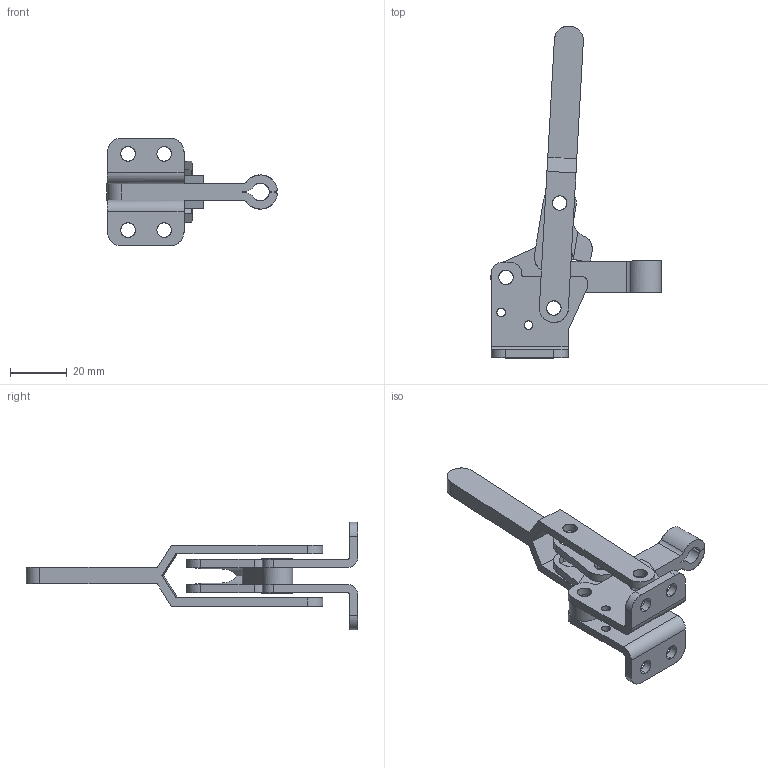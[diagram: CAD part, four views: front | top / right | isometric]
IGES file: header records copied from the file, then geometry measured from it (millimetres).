
Start section: Comment
Global section: file name: 11502c.igs; native system:  By Spatial Corp.; preprocessor: XPlus PS/IGES 3.0; author: Author; organization: Title; date: 20050216.165525; units: inch
Bounding box: 59.91 x 116.65 x 37.8 mm (x, y, z)
Surface area: 15259.7 mm2 (no closed solid volume)
Topology: 0 solids, 0 shells, 155 faces, 894 edges, 894 vertices
Faces by surface type: revolution 95, extrusion 60
